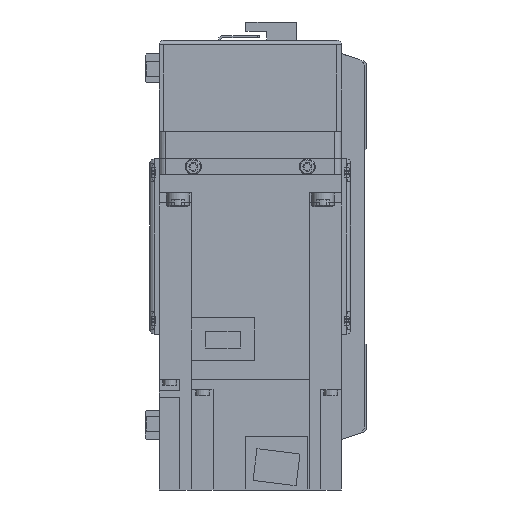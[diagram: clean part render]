
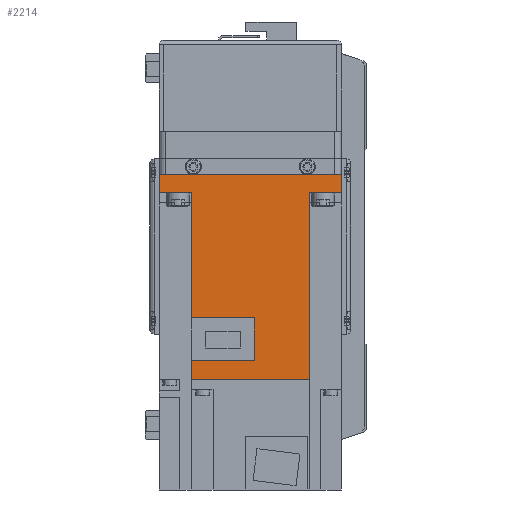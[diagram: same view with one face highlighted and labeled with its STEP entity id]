
A CAD part, left-side view. The second image highlights one B-rep face of the part: STEP entity #2214.
In plain terms, the highlighted planar face has unit normal (-1, 0, 0) as drawn and (1, 0, 0) by its records, which use the part's own axes.
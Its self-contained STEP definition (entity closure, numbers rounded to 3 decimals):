
#2214 = ADVANCED_FACE( '', ( #5117 ), #5118, .F. );
#5117 = FACE_OUTER_BOUND( '', #8797, .T. );
#5118 = PLANE( '', #8798 );
#8797 = EDGE_LOOP( '', ( #15042, #15043, #15044, #15045, #15046, #15047, #15048, #15049, #15050, #15051, #15052, #15053 ) );
#8798 = AXIS2_PLACEMENT_3D( '', #15054, #15055, #15056 );
#15042 = ORIENTED_EDGE( '', *, *, #22877, .F. );
#15043 = ORIENTED_EDGE( '', *, *, #22878, .F. );
#15044 = ORIENTED_EDGE( '', *, *, #22879, .F. );
#15045 = ORIENTED_EDGE( '', *, *, #21974, .T. );
#15046 = ORIENTED_EDGE( '', *, *, #22302, .F. );
#15047 = ORIENTED_EDGE( '', *, *, #22880, .T. );
#15048 = ORIENTED_EDGE( '', *, *, #22861, .T. );
#15049 = ORIENTED_EDGE( '', *, *, #22881, .F. );
#15050 = ORIENTED_EDGE( '', *, *, #22518, .F. );
#15051 = ORIENTED_EDGE( '', *, *, #22882, .F. );
#15052 = ORIENTED_EDGE( '', *, *, #22883, .F. );
#15053 = ORIENTED_EDGE( '', *, *, #22884, .F. );
#15054 = CARTESIAN_POINT( '', ( 40., 89.8, 40. ) );
#15055 = DIRECTION( '', ( -1., 0., 0. ) );
#15056 = DIRECTION( '', ( 0., 0., 1. ) );
#21974 = EDGE_CURVE( '', #26730, #26728, #26731, .T. );
#22302 = EDGE_CURVE( '', #27256, #26728, #27258, .T. );
#22518 = EDGE_CURVE( '', #27593, #27594, #27595, .T. );
#22861 = EDGE_CURVE( '', #28097, #28095, #28098, .T. );
#22877 = EDGE_CURVE( '', #27092, #28120, #28121, .T. );
#22878 = EDGE_CURVE( '', #28122, #27092, #28123, .T. );
#22879 = EDGE_CURVE( '', #26730, #28122, #28124, .T. );
#22880 = EDGE_CURVE( '', #27256, #28097, #28125, .T. );
#22881 = EDGE_CURVE( '', #27594, #28095, #28126, .T. );
#22882 = EDGE_CURVE( '', #27093, #27593, #28127, .T. );
#22883 = EDGE_CURVE( '', #28128, #27093, #28129, .T. );
#22884 = EDGE_CURVE( '', #28120, #28128, #28130, .T. );
#26728 = VERTEX_POINT( '', #33775 );
#26730 = VERTEX_POINT( '', #33778 );
#26731 = LINE( '', #33779, #33780 );
#27092 = VERTEX_POINT( '', #34350 );
#27093 = VERTEX_POINT( '', #34351 );
#27256 = VERTEX_POINT( '', #34589 );
#27258 = LINE( '', #34592, #34593 );
#27593 = VERTEX_POINT( '', #35040 );
#27594 = VERTEX_POINT( '', #35041 );
#27595 = LINE( '', #35042, #35043 );
#28095 = VERTEX_POINT( '', #35772 );
#28097 = VERTEX_POINT( '', #35775 );
#28098 = LINE( '', #35776, #35777 );
#28120 = VERTEX_POINT( '', #35804 );
#28121 = LINE( '', #35805, #35806 );
#28122 = VERTEX_POINT( '', #35807 );
#28123 = LINE( '', #35808, #35809 );
#28124 = LINE( '', #35810, #35811 );
#28125 = LINE( '', #35812, #35813 );
#28126 = LINE( '', #35814, #35815 );
#28127 = LINE( '', #35816, #35817 );
#28128 = VERTEX_POINT( '', #35818 );
#28129 = LINE( '', #35819, #35820 );
#28130 = LINE( '', #35821, #35822 );
#33775 = CARTESIAN_POINT( '', ( 40., 8., 25.95 ) );
#33778 = CARTESIAN_POINT( '', ( 40., 89.8, 25.95 ) );
#33779 = CARTESIAN_POINT( '', ( 40., 158., 25.95 ) );
#33780 = VECTOR( '', #40474, 1000. );
#34350 = CARTESIAN_POINT( '', ( 40., 81.4, -25.95 ) );
#34351 = CARTESIAN_POINT( '', ( 40., 62.8, -25.95 ) );
#34589 = CARTESIAN_POINT( '', ( 40., 8., 40. ) );
#34592 = CARTESIAN_POINT( '', ( 40., 8., 40. ) );
#34593 = VECTOR( '', #40873, 1000. );
#35040 = CARTESIAN_POINT( '', ( 40., 8., -25.95 ) );
#35041 = CARTESIAN_POINT( '', ( 40., 8., -40. ) );
#35042 = CARTESIAN_POINT( '', ( 40., 8., 40. ) );
#35043 = VECTOR( '', #41150, 1000. );
#35772 = CARTESIAN_POINT( '', ( 40., 0., -40. ) );
#35775 = CARTESIAN_POINT( '', ( 40., 0., 40. ) );
#35776 = CARTESIAN_POINT( '', ( 40., 0., 40. ) );
#35777 = VECTOR( '', #41549, 1000. );
#35804 = CARTESIAN_POINT( '', ( 40., 81.4, 1.8 ) );
#35805 = CARTESIAN_POINT( '', ( 40., 81.4, -26. ) );
#35806 = VECTOR( '', #41567, 1000. );
#35807 = CARTESIAN_POINT( '', ( 40., 89.8, -25.95 ) );
#35808 = CARTESIAN_POINT( '', ( 40., 158., -25.95 ) );
#35809 = VECTOR( '', #41568, 1000. );
#35810 = CARTESIAN_POINT( '', ( 40., 89.8, 40. ) );
#35811 = VECTOR( '', #41569, 1000. );
#35812 = CARTESIAN_POINT( '', ( 40., 89.8, 40. ) );
#35813 = VECTOR( '', #41570, 1000. );
#35814 = CARTESIAN_POINT( '', ( 40., 89.8, -40. ) );
#35815 = VECTOR( '', #41571, 1000. );
#35816 = CARTESIAN_POINT( '', ( 40., 158., -25.95 ) );
#35817 = VECTOR( '', #41572, 1000. );
#35818 = CARTESIAN_POINT( '', ( 40., 62.8, 1.8 ) );
#35819 = CARTESIAN_POINT( '', ( 40., 62.8, 1.8 ) );
#35820 = VECTOR( '', #41573, 1000. );
#35821 = CARTESIAN_POINT( '', ( 40., 81.4, 1.8 ) );
#35822 = VECTOR( '', #41574, 1000. );
#40474 = DIRECTION( '', ( 0., -1., 0. ) );
#40873 = DIRECTION( '', ( 0., 0., -1. ) );
#41150 = DIRECTION( '', ( 0., 0., -1. ) );
#41549 = DIRECTION( '', ( 0., 0., -1. ) );
#41567 = DIRECTION( '', ( 0., 0., 1. ) );
#41568 = DIRECTION( '', ( 0., -1., 0. ) );
#41569 = DIRECTION( '', ( 0., 0., -1. ) );
#41570 = DIRECTION( '', ( 0., -1., 0. ) );
#41571 = DIRECTION( '', ( 0., -1., 0. ) );
#41572 = DIRECTION( '', ( 0., -1., 0. ) );
#41573 = DIRECTION( '', ( 0., 0., -1. ) );
#41574 = DIRECTION( '', ( 0., -1., 0. ) );
